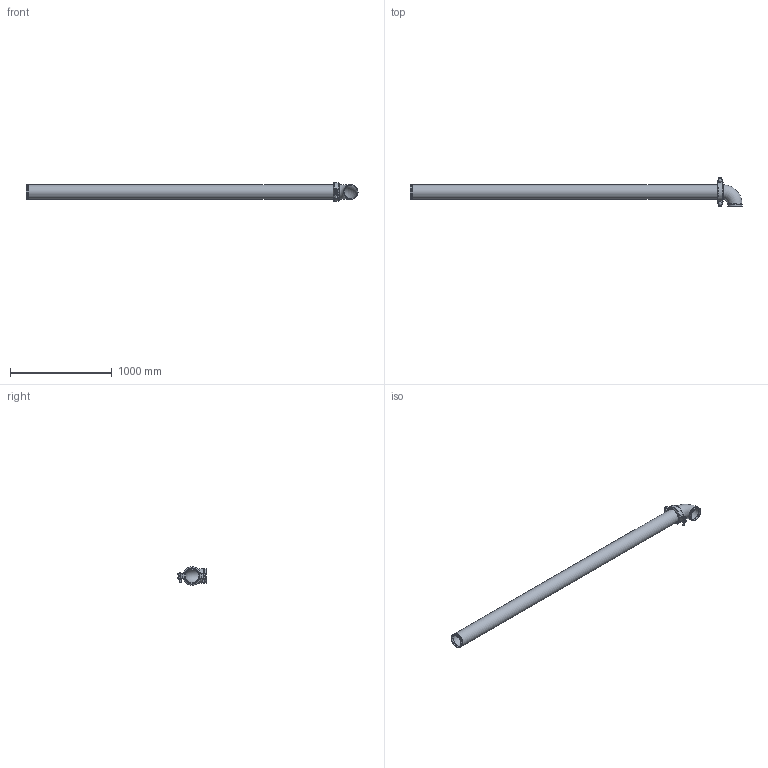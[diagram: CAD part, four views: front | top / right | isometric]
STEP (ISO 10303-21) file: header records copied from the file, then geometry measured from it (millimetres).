
FILE_DESCRIPTION(/* description */ ('VIC LONG RUN FITTING No R23 (OGS)','CAx-IF Rec.Pracs.---Representation and Presentation of Product Manufacturing Information (PMI)---4.0---2014-10-13'),/* implementation_level */ '2;1');
FILE_NAME(/* name */ 'C:\Users\Vjadhav\AppData\Roaming\Autodesk\ApplicationPlugins\Back Up\Victaulic_IPS_Long Run Fittings_No R23 (OGS)\Victaulic_IPS_Long Run Fittings_No R23 (OGS)_5 (125).stp',/* time_stamp */ '2020-10-06T20:01:58+06:00',/* author */ ('Vjadhav'),/* organization */ ('Victaulic'),/* preprocessor_version */ 'ST-DEVELOPER v17.2',/* originating_system */ 'Autodesk Inventor 2019',/* authorisation */ '');
FILE_SCHEMA (('AP242_MANAGED_MODEL_BASED_3D_ENGINEERING_MIM_LF { 1 0 10303 442 1 1 4 }'));
Length unit declared in the file: inch
Products named in the file (4): R23-05.0; 010-05.0; 177N-05.0; Pipe_R13-05.0
Assembly tree (3 placements, depth 2):
  R23-05.0
    010-05.0
    177N-05.0
    Pipe_R13-05.0
Bounding box: 3268 x 284.03 x 185.67 mm (x, y, z)
Volume: 9878584.5 mm3; surface area: 2904869.7 mm2
Topology: 3 solids, 3 shells, 117 faces, 305 edges, 206 vertices
Faces by surface type: plane 68, cylinder 37, torus 6, cone 4, sphere 2
Full cylindrical faces by diameter (mm): 17.78 x2, 30.48 x2, 128.194 x3, 128.6 x1, 137.033 x4, 141.3 x7
Entity records: 4268 total; most frequent: CARTESIAN_POINT 971, DIRECTION 661, ORIENTED_EDGE 618, EDGE_CURVE 309, AXIS2_PLACEMENT_3D 248, VERTEX_POINT 206, LINE 165, VECTOR 165
